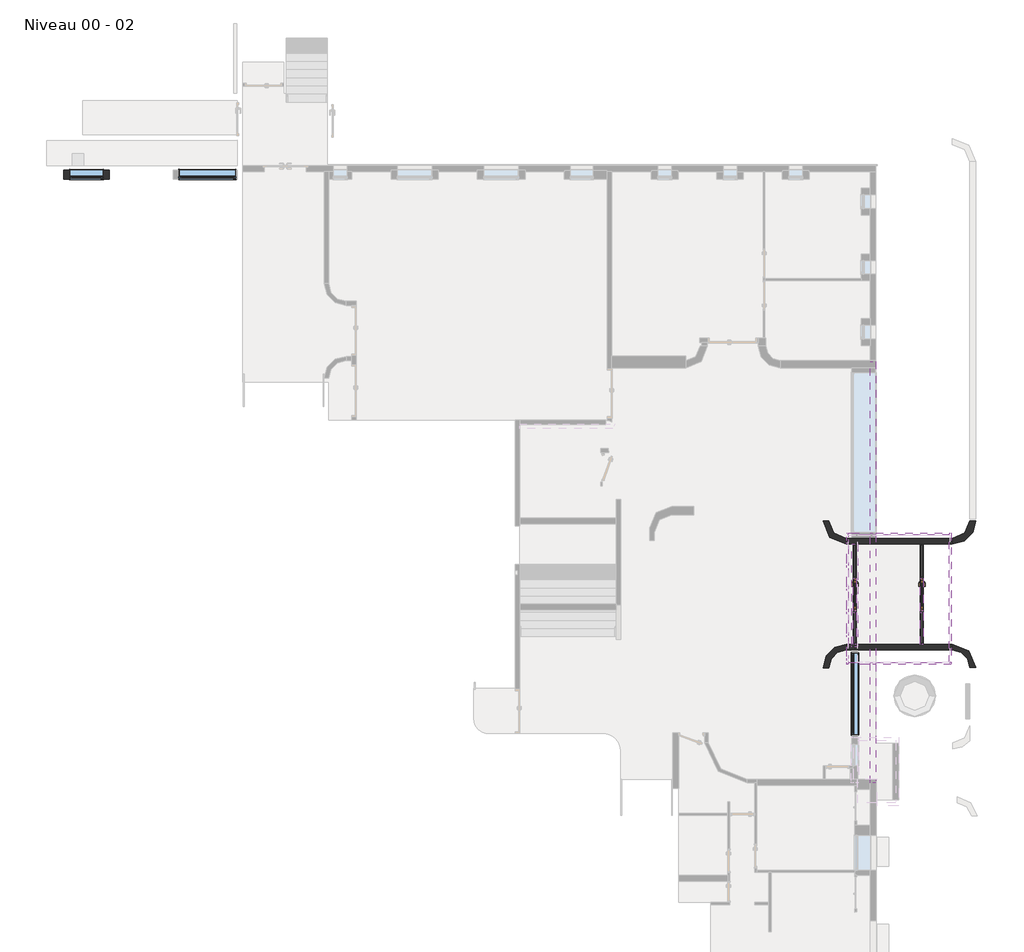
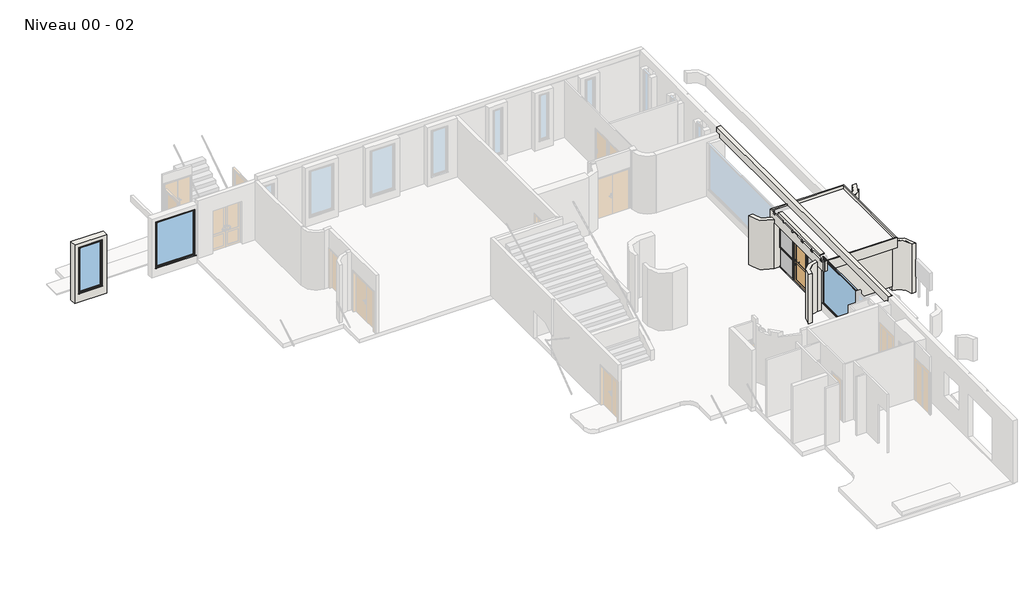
# One storey, part 3 of 6: 24 members, 14 walls, 8 plates, 3 windows, 2 doors.
"""IFC4 building model written with IfcOpenShell, lengths in millimetres."""

from ifc_helpers import new_model, si_unit, point, frame, frame_2d, origin, place, context, project, spatial, polyline, circle_curve, trimmed, segment, composite_curve, outline, extrude, faceted_brep, transform, mapped, element, save
from ifc_brep_helpers import plane_surface, cylinder_surface, revolved_surface, advanced_brep
from components import door_150329e5, meneau_rectangulaire_50_x_100mm_148b805f, meneau_rectangulaire_50_x_100mm_1a1e636b, meneau_rectangulaire_50_x_100mm_10496985, meneau_rectangulaire_50_x_100mm_e49218c7, meneau_rectangulaire_50_x_100mm_ac0cbf57, meneau_rectangulaire_50_x_100mm_a074cdb9, meneau_rectangulaire_50_x_100mm_a95d30d4, meneau_rectangulaire_50_x_100mm_ea9b84e9, meneau_rectangulaire_50_x_100mm_b1ef6331, plate_d307b216, plate_de3d3c99, plate_a6acd960, plate_1de134aa, window_116x_240_cm_9ea8152d, window_195_x_240_cm_518133bf, window_280_x_245_cm_447e3024

model = new_model("IFC4")

# Units and contexts
model_context = context("Model", 3, world=origin())
ifc_project = project(units=[si_unit("LENGTHUNIT", "METRE", prefix="MILLI")], contexts=[model_context])

# Site, building, storey
site = spatial("IfcSite", under=ifc_project)
building = spatial("IfcBuilding", under=site)
storey = spatial("IfcBuildingStorey", under=building, Name="Niveau 00 - 02", Elevation=893.3082742)

# Doors
placement = place(None, origin())
door_shape = door_150329e5(model_context)
element("IfcDoor", 1, ObjectType="Simple vitrée : Simple vitrée", at=placement, inside=storey, context=model_context, shape_type="MappedRepresentation", body=[
    mapped(door_shape, transform((4624.2383271, -3998.4112741, 943.3082742), x_axis=(0.0, 1.0, 0.0), y_axis=(-1.0, 0.0, 0.0), z_axis=(0.0, 0.0, 1.0))),
])
element("IfcDoor", 2, ObjectType="Simple vitrée : Simple vitrée", at=placement, inside=storey, context=model_context, shape_type="MappedRepresentation", body=[
    mapped(door_shape, transform((2320.3283813, -3998.4112741, 943.3082742), x_axis=(0.0, 1.0, 0.0), y_axis=(-1.0, 0.0, 0.0), z_axis=(0.0, 0.0, 1.0))),
])

# Members
meneau_rectangulaire_50_x_100mm_shape = meneau_rectangulaire_50_x_100mm_148b805f(model_context)
element("IfcMember", 3, ObjectType="Meneau rectangulaire : 50 x 100mm", at=placement, inside=storey, context=model_context, shape_type="MappedRepresentation", body=[
    mapped(meneau_rectangulaire_50_x_100mm_shape, transform((4624.2383271, -4581.3399336, 893.3082742), x_axis=(0.0, 0.0, -1.0), y_axis=(1.0, 0.0, 0.0), z_axis=(0.0, -1.0, 0.0))),
])
element("IfcMember", 4, ObjectType="Meneau rectangulaire : 50 x 100mm", at=placement, inside=storey, context=model_context, shape_type="MappedRepresentation", body=[
    mapped(meneau_rectangulaire_50_x_100mm_shape, transform((2320.3283813, -4581.3399336, 893.3082742), x_axis=(0.0, 0.0, -1.0), y_axis=(1.0, 0.0, 0.0), z_axis=(0.0, -1.0, 0.0))),
])
meneau_rectangulaire_50_x_100mm_2_shape = meneau_rectangulaire_50_x_100mm_1a1e636b(model_context)
element("IfcMember", 5, ObjectType="Meneau rectangulaire : 50 x 100mm", at=placement, inside=storey, context=model_context, shape_type="MappedRepresentation", body=[
    mapped(meneau_rectangulaire_50_x_100mm_2_shape, transform((4624.2383271, -3440.4826145, 3243.3082742), x_axis=(0.0, 0.0, 1.0), y_axis=(1.0, 0.0, 0.0), z_axis=(0.0, 1.0, 0.0))),
])
element("IfcMember", 6, ObjectType="Meneau rectangulaire : 50 x 100mm", at=placement, inside=storey, context=model_context, shape_type="MappedRepresentation", body=[
    mapped(meneau_rectangulaire_50_x_100mm_2_shape, transform((2320.3283813, -3440.4826145, 3243.3082742), x_axis=(0.0, 0.0, 1.0), y_axis=(1.0, 0.0, 0.0), z_axis=(0.0, 1.0, 0.0))),
])
element("IfcMember", 7, ObjectType="Meneau rectangulaire : 50 x 100mm", at=placement, inside=storey, context=model_context, shape_type="MappedRepresentation", body=[
    mapped(meneau_rectangulaire_50_x_100mm_shape, transform((4624.2383271, -3415.4826145, 893.3082742), x_axis=(0.0, 0.0, -1.0), y_axis=(1.0, 0.0, 0.0), z_axis=(0.0, -1.0, 0.0))),
])
element("IfcMember", 8, ObjectType="Meneau rectangulaire : 50 x 100mm", at=placement, inside=storey, context=model_context, shape_type="MappedRepresentation", body=[
    mapped(meneau_rectangulaire_50_x_100mm_shape, transform((2320.3283813, -3415.4826145, 893.3082742), x_axis=(0.0, 0.0, -1.0), y_axis=(1.0, 0.0, 0.0), z_axis=(0.0, -1.0, 0.0))),
])
meneau_rectangulaire_50_x_100mm_3_shape = meneau_rectangulaire_50_x_100mm_10496985(model_context)
element("IfcMember", 9, ObjectType="Meneau rectangulaire : 50 x 100mm", at=placement, inside=storey, context=model_context, shape_type="MappedRepresentation", body=[
    mapped(meneau_rectangulaire_50_x_100mm_3_shape, transform((4624.2383271, -2299.6253919, 1953.3082742), x_axis=(0.0, 0.0, 1.0), y_axis=(1.0, 0.0, 0.0), z_axis=(0.0, 1.0, 0.0))),
])
element("IfcMember", 10, ObjectType="Meneau rectangulaire : 50 x 100mm", at=placement, inside=storey, context=model_context, shape_type="MappedRepresentation", body=[
    mapped(meneau_rectangulaire_50_x_100mm_3_shape, transform((2320.3283813, -2299.6253919, 1953.3082742), x_axis=(0.0, 0.0, 1.0), y_axis=(1.0, 0.0, 0.0), z_axis=(0.0, 1.0, 0.0))),
])
meneau_rectangulaire_50_x_100mm_4_shape = meneau_rectangulaire_50_x_100mm_e49218c7(model_context)
element("IfcMember", 11, ObjectType="Meneau rectangulaire : 50 x 100mm", at=placement, inside=storey, context=model_context, shape_type="MappedRepresentation", body=[
    mapped(meneau_rectangulaire_50_x_100mm_4_shape, transform((4624.2383271, -4581.3399336, 943.3082742), x_axis=(0.0, 1.0, 0.0), y_axis=(1.0, 0.0, 0.0), z_axis=(0.0, 0.0, -1.0))),
])
element("IfcMember", 12, ObjectType="Meneau rectangulaire : 50 x 100mm", at=placement, inside=storey, context=model_context, shape_type="MappedRepresentation", body=[
    mapped(meneau_rectangulaire_50_x_100mm_4_shape, transform((4624.2383271, -3415.4826145, 943.3082742), x_axis=(0.0, 1.0, 0.0), y_axis=(1.0, 0.0, 0.0), z_axis=(0.0, 0.0, -1.0))),
])
element("IfcMember", 13, ObjectType="Meneau rectangulaire : 50 x 100mm", at=placement, inside=storey, context=model_context, shape_type="MappedRepresentation", body=[
    mapped(meneau_rectangulaire_50_x_100mm_4_shape, transform((2320.3283813, -4581.3399336, 943.3082742), x_axis=(0.0, 1.0, 0.0), y_axis=(1.0, 0.0, 0.0), z_axis=(0.0, 0.0, -1.0))),
])
element("IfcMember", 14, ObjectType="Meneau rectangulaire : 50 x 100mm", at=placement, inside=storey, context=model_context, shape_type="MappedRepresentation", body=[
    mapped(meneau_rectangulaire_50_x_100mm_4_shape, transform((2320.3283813, -3415.4826145, 943.3082742), x_axis=(0.0, 1.0, 0.0), y_axis=(1.0, 0.0, 0.0), z_axis=(0.0, 0.0, -1.0))),
])
meneau_rectangulaire_50_x_100mm_5_shape = meneau_rectangulaire_50_x_100mm_ac0cbf57(model_context)
element("IfcMember", 15, ObjectType="Meneau rectangulaire : 50 x 100mm", at=placement, inside=storey, context=model_context, shape_type="MappedRepresentation", body=[
    mapped(meneau_rectangulaire_50_x_100mm_5_shape, transform((4624.2383271, -4581.3399336, 1953.3082742), x_axis=(0.0, 1.0, 0.0), y_axis=(1.0, 0.0, 0.0), z_axis=(0.0, 0.0, -1.0))),
])
element("IfcMember", 16, ObjectType="Meneau rectangulaire : 50 x 100mm", at=placement, inside=storey, context=model_context, shape_type="MappedRepresentation", body=[
    mapped(meneau_rectangulaire_50_x_100mm_5_shape, transform((4624.2383271, -3415.4826145, 1953.3082742), x_axis=(0.0, 1.0, 0.0), y_axis=(1.0, 0.0, 0.0), z_axis=(0.0, 0.0, -1.0))),
])
element("IfcMember", 17, ObjectType="Meneau rectangulaire : 50 x 100mm", at=placement, inside=storey, context=model_context, shape_type="MappedRepresentation", body=[
    mapped(meneau_rectangulaire_50_x_100mm_5_shape, transform((2320.3283813, -4581.3399336, 1953.3082742), x_axis=(0.0, 1.0, 0.0), y_axis=(1.0, 0.0, 0.0), z_axis=(0.0, 0.0, -1.0))),
])
element("IfcMember", 18, ObjectType="Meneau rectangulaire : 50 x 100mm", at=placement, inside=storey, context=model_context, shape_type="MappedRepresentation", body=[
    mapped(meneau_rectangulaire_50_x_100mm_5_shape, transform((2320.3283813, -3415.4826145, 1953.3082742), x_axis=(0.0, 1.0, 0.0), y_axis=(1.0, 0.0, 0.0), z_axis=(0.0, 0.0, -1.0))),
])
meneau_rectangulaire_50_x_100mm_6_shape = meneau_rectangulaire_50_x_100mm_a074cdb9(model_context)
element("IfcMember", 19, ObjectType="Meneau rectangulaire : 50 x 100mm", at=placement, inside=storey, context=model_context, shape_type="MappedRepresentation", body=[
    mapped(meneau_rectangulaire_50_x_100mm_6_shape, transform((4624.2383271, -2249.6253919, 1953.3082742), x_axis=(0.0, 1.0, 0.0), y_axis=(1.0, 0.0, 0.0), z_axis=(0.0, 0.0, -1.0))),
])
element("IfcMember", 20, ObjectType="Meneau rectangulaire : 50 x 100mm", at=placement, inside=storey, context=model_context, shape_type="MappedRepresentation", body=[
    mapped(meneau_rectangulaire_50_x_100mm_6_shape, transform((2320.3283813, -2249.6253919, 1953.3082742), x_axis=(0.0, 1.0, 0.0), y_axis=(1.0, 0.0, 0.0), z_axis=(0.0, 0.0, -1.0))),
])
meneau_rectangulaire_50_x_100mm_7_shape = meneau_rectangulaire_50_x_100mm_a95d30d4(model_context)
element("IfcMember", 21, ObjectType="Meneau rectangulaire : 50 x 100mm", at=placement, inside=storey, context=model_context, shape_type="MappedRepresentation", body=[
    mapped(meneau_rectangulaire_50_x_100mm_7_shape, transform((4624.2383271, -5699.6253835, 1953.3082742), x_axis=(0.0, -1.0, 0.0), y_axis=(1.0, 0.0, 0.0), z_axis=(0.0, 0.0, 1.0))),
])
element("IfcMember", 22, ObjectType="Meneau rectangulaire : 50 x 100mm", at=placement, inside=storey, context=model_context, shape_type="MappedRepresentation", body=[
    mapped(meneau_rectangulaire_50_x_100mm_7_shape, transform((2320.3283813, -5699.6253835, 1953.3082742), x_axis=(0.0, -1.0, 0.0), y_axis=(1.0, 0.0, 0.0), z_axis=(0.0, 0.0, 1.0))),
])
meneau_rectangulaire_50_x_100mm_8_shape = meneau_rectangulaire_50_x_100mm_ea9b84e9(model_context)
element("IfcMember", 23, ObjectType="Meneau rectangulaire : 50 x 100mm", at=placement, inside=storey, context=model_context, shape_type="MappedRepresentation", body=[
    mapped(meneau_rectangulaire_50_x_100mm_8_shape, transform((4624.2383271, -4606.3399336, 3243.3082742), x_axis=(0.0, 0.0, 1.0), y_axis=(1.0, 0.0, 0.0), z_axis=(0.0, 1.0, 0.0))),
])
element("IfcMember", 24, ObjectType="Meneau rectangulaire : 50 x 100mm", at=placement, inside=storey, context=model_context, shape_type="MappedRepresentation", body=[
    mapped(meneau_rectangulaire_50_x_100mm_8_shape, transform((2320.3283813, -4606.3399336, 3243.3082742), x_axis=(0.0, 0.0, 1.0), y_axis=(1.0, 0.0, 0.0), z_axis=(0.0, 1.0, 0.0))),
])
meneau_rectangulaire_50_x_100mm_9_shape = meneau_rectangulaire_50_x_100mm_b1ef6331(model_context)
element("IfcMember", 25, ObjectType="Meneau rectangulaire : 50 x 100mm", at=placement, inside=storey, context=model_context, shape_type="MappedRepresentation", body=[
    mapped(meneau_rectangulaire_50_x_100mm_9_shape, transform((4624.2383271, -4606.3399336, 1953.3082742), x_axis=(0.0, 0.0, 1.0), y_axis=(1.0, 0.0, 0.0), z_axis=(0.0, 1.0, 0.0))),
])
element("IfcMember", 26, ObjectType="Meneau rectangulaire : 50 x 100mm", at=placement, inside=storey, context=model_context, shape_type="MappedRepresentation", body=[
    mapped(meneau_rectangulaire_50_x_100mm_9_shape, transform((2320.3283813, -4606.3399336, 1953.3082742), x_axis=(0.0, 0.0, 1.0), y_axis=(1.0, 0.0, 0.0), z_axis=(0.0, 1.0, 0.0))),
])

# Plates
plate_shape = plate_d307b216(model_context)
element("IfcPlate", 27, ObjectType="Panneau système : Vitré", at=placement, inside=storey, context=model_context, shape_type="MappedRepresentation", body=[
    mapped(plate_shape, transform((4624.2383271, -5127.9826585, 943.3082742), x_axis=(0.0, 1.0, 0.0), y_axis=(-1.0, 0.0, 0.0), z_axis=(0.0, 0.0, 1.0))),
])
element("IfcPlate", 28, ObjectType="Panneau système : Vitré", at=placement, inside=storey, context=model_context, shape_type="MappedRepresentation", body=[
    mapped(plate_shape, transform((2320.3283813, -5127.9826585, 943.3082742), x_axis=(0.0, 1.0, 0.0), y_axis=(-1.0, 0.0, 0.0), z_axis=(0.0, 0.0, 1.0))),
])
plate_2_shape = plate_de3d3c99(model_context)
element("IfcPlate", 29, ObjectType="Panneau système : Vitré", at=placement, inside=storey, context=model_context, shape_type="MappedRepresentation", body=[
    mapped(plate_2_shape, transform((4624.2383271, -5127.9826585, 1978.3082742), x_axis=(0.0, 1.0, 0.0), y_axis=(-1.0, 0.0, 0.0), z_axis=(0.0, 0.0, 1.0))),
])
element("IfcPlate", 30, ObjectType="Panneau système : Vitré", at=placement, inside=storey, context=model_context, shape_type="MappedRepresentation", body=[
    mapped(plate_2_shape, transform((2320.3283813, -5127.9826585, 1978.3082742), x_axis=(0.0, 1.0, 0.0), y_axis=(-1.0, 0.0, 0.0), z_axis=(0.0, 0.0, 1.0))),
])
plate_3_shape = plate_a6acd960(model_context)
element("IfcPlate", 31, ObjectType="Panneau système : Vitré", at=placement, inside=storey, context=model_context, shape_type="MappedRepresentation", body=[
    mapped(plate_3_shape, transform((4624.2383271, -2845.0540032, 943.3082742), x_axis=(0.0, 1.0, 0.0), y_axis=(-1.0, 0.0, 0.0), z_axis=(0.0, 0.0, 1.0))),
])
element("IfcPlate", 32, ObjectType="Panneau système : Vitré", at=placement, inside=storey, context=model_context, shape_type="MappedRepresentation", body=[
    mapped(plate_3_shape, transform((2320.3283813, -2845.0540032, 943.3082742), x_axis=(0.0, 1.0, 0.0), y_axis=(-1.0, 0.0, 0.0), z_axis=(0.0, 0.0, 1.0))),
])
plate_4_shape = plate_1de134aa(model_context)
element("IfcPlate", 33, ObjectType="Panneau système : Vitré", at=placement, inside=storey, context=model_context, shape_type="MappedRepresentation", body=[
    mapped(plate_4_shape, transform((4624.2383271, -2845.0540032, 1978.3082742), x_axis=(0.0, 1.0, 0.0), y_axis=(-1.0, 0.0, 0.0), z_axis=(0.0, 0.0, 1.0))),
])
element("IfcPlate", 34, ObjectType="Panneau système : Vitré", at=placement, inside=storey, context=model_context, shape_type="MappedRepresentation", body=[
    mapped(plate_4_shape, transform((2320.3283813, -2845.0540032, 1978.3082742), x_axis=(0.0, 1.0, 0.0), y_axis=(-1.0, 0.0, 0.0), z_axis=(0.0, 0.0, 1.0))),
])

# Walls
element("IfcWall", 35, ObjectType="@_Générique - Int. 60 mm", at=placement, inside=storey, context=model_context, shape_type="Brep", body=[
    faceted_brep([(5639.2383271, -6329.9413933, 3243.3082742), (5639.2383271, -1872.3694361, 3243.3082742), (5639.2383271, -1872.3694361, 3743.3082742), (5639.2383271, -6329.9413933, 3743.3082742), (5579.2383271, -6329.9413933, 3243.3082742), (5579.2383271, -6329.9413933, 3743.3082742), (5579.2383271, -1932.3694361, 3743.3082742), (5579.2383271, -1872.3694361, 3743.3082742), (5579.2383271, -1872.3694361, 3243.3082742), (5579.2383271, -1932.3694361, 3243.3082742)], [[[0, 1, 2, 3]], [[4, 5, 6, 7, 8, 9]], [[1, 0, 4, 9, 8]], [[3, 2, 7, 6, 5]], [[2, 1, 8, 7]], [[0, 3, 5, 4]]]),
])
element("IfcWall", 36, ObjectType="@_Générique - Int. 60 mm", at=placement, inside=storey, context=model_context, shape_type="Brep", body=[
    faceted_brep([(2098.4732755, -6389.9413933, 3243.3082742), (5639.2383271, -6389.9413933, 3243.3082742), (5639.2383271, -6389.9413933, 3743.3082742), (3047.4682744, -6389.9413933, 3743.3082742), (2847.4682744, -6389.9413933, 3743.3082742), (2098.4732755, -6389.9413933, 3743.3082742), (2098.4732755, -6329.9413933, 3243.3082742), (2098.4732755, -6329.9413933, 3743.3082742), (2847.4682744, -6329.9413933, 3743.3082742), (3047.4682744, -6329.9413933, 3743.3082742), (5579.2383271, -6329.9413933, 3743.3082742), (5639.2383271, -6329.9413933, 3743.3082742), (5639.2383271, -6329.9413933, 3243.3082742), (5579.2383271, -6329.9413933, 3243.3082742)], [[[0, 1, 2, 3, 4, 5]], [[6, 7, 8, 9, 10, 11, 12, 13]], [[1, 0, 6, 13, 12]], [[5, 4, 3, 2, 11, 10, 9, 8, 7]], [[2, 1, 12, 11]], [[0, 5, 7, 6]]]),
])
element("IfcWall", 37, ObjectType="@_Générique - Int. 60 mm", at=placement, inside=storey, context=model_context, shape_type="Brep", body=[
    faceted_brep([(5579.2383271, -1872.3694361, 3243.3082742), (2098.4732755, -1872.3694361, 3243.3082742), (2098.4732755, -1872.3694361, 3743.3082742), (2847.4682745, -1872.3694361, 3743.3082742), (3047.4682745, -1872.3694361, 3743.3082742), (5579.2383271, -1872.3694361, 3743.3082742), (5579.2383271, -1932.3694361, 3243.3082742), (5579.2383271, -1932.3694361, 3743.3082742), (3047.4682745, -1932.3694361, 3743.3082742), (2847.4682745, -1932.3694361, 3743.3082742), (2098.4732755, -1932.3694361, 3743.3082742), (2098.4732755, -1932.3694361, 3493.3082742), (2098.4732755, -1932.3694361, 3293.3082742), (2098.4732755, -1932.3694361, 3243.3082742)], [[[0, 1, 2, 3, 4, 5]], [[6, 7, 8, 9, 10, 11, 12, 13]], [[1, 0, 6, 13]], [[5, 4, 3, 2, 10, 9, 8, 7]], [[0, 5, 7, 6]], [[2, 1, 13, 12, 11, 10]]]),
])
element("IfcWall", 38, ObjectType="@_Générique - Int. 60 mm", at=placement, inside=storey, context=model_context, shape_type="AdvancedBrep", body=[
    advanced_brep(
    [(2098.4732755, -6389.9413933, 3243.3082742), (2098.4732755, -6329.9413933, 3243.3082742), (2098.4732755, -1932.3694361, 3243.3082742), (2098.4732755, -1872.3694361, 3243.3082742), (2098.4732755, -1872.3694361, 3743.3082742), (2098.4732755, -1932.3694361, 3743.3082742), (2098.4732755, -2087.8799451, 3743.3082742), (2098.4732755, -2087.8799451, 3673.3082742), (2098.4732755, -2290.7660029, 3673.3082742), (2098.4732755, -2290.7660029, 3743.3082742), (2098.4732755, -2887.8799451, 3743.3082742), (2098.4732755, -2887.8799451, 3673.3082742), (2098.4732755, -3090.7660029, 3673.3082742), (2098.4732755, -3090.7660029, 3743.3082742), (2098.4732755, -3687.8799451, 3743.3082742), (2098.4732755, -3687.8799451, 3673.3082742), (2098.4732755, -3890.7660029, 3673.3082742), (2098.4732755, -3890.7660029, 3743.3082742), (2098.4732755, -4487.8799451, 3743.3082742), (2098.4732755, -4487.8799451, 3673.3082742), (2098.4732755, -4690.7660029, 3673.3082742), (2098.4732755, -4690.7660029, 3743.3082742), (2098.4732755, -5287.8799451, 3743.3082742), (2098.4732755, -5287.8799451, 3673.3082742), (2098.4732755, -5490.7660029, 3673.3082742), (2098.4732755, -5490.7660029, 3743.3082742), (2098.4732755, -6087.8799451, 3743.3082742), (2098.4732755, -6087.8799451, 3673.3082742), (2098.4732755, -6290.7660029, 3673.3082742), (2098.4732755, -6290.7660029, 3743.3082742), (2098.4732755, -6329.9413933, 3743.3082742), (2098.4732755, -6389.9413933, 3743.3082742), (2038.4732755, -1872.3694361, 3243.3082742), (2038.4732755, -6389.9413933, 3243.3082742), (2038.4732755, -6389.9413933, 3743.3082742), (2038.4732755, -6253.2293239, 3743.3082742), (2038.4732755, -6253.2293239, 3673.3082742), (2038.4732755, -6125.4166242, 3673.3082742), (2038.4732755, -6125.4166242, 3743.3082742), (2038.4732755, -5453.2293239, 3743.3082742), (2038.4732755, -5453.2293239, 3673.3082742), (2038.4732755, -5325.4166242, 3673.3082742), (2038.4732755, -5325.4166242, 3743.3082742), (2038.4732755, -4653.2293239, 3743.3082742), (2038.4732755, -4653.2293239, 3673.3082742), (2038.4732755, -4525.4166242, 3673.3082742), (2038.4732755, -4525.4166242, 3743.3082742), (2038.4732755, -3853.2293239, 3743.3082742), (2038.4732755, -3853.2293239, 3673.3082742), (2038.4732755, -3725.4166242, 3673.3082742), (2038.4732755, -3725.4166242, 3743.3082742), (2038.4732755, -3053.2293239, 3743.3082742), (2038.4732755, -3053.2293239, 3673.3082742), (2038.4732755, -2925.4166242, 3673.3082742), (2038.4732755, -2925.4166242, 3743.3082742), (2038.4732755, -2253.2293239, 3743.3082742), (2038.4732755, -2253.2293239, 3673.3082742), (2038.4732755, -2125.4166242, 3673.3082742), (2038.4732755, -2125.4166242, 3743.3082742), (2038.4732755, -1872.3694361, 3743.3082742)],
    [
        (0, 1),
        (1, 2),
        (2, 3),
        (3, 4),
        (4, 5),
        (5, 6),
        (6, 7),
        (7, 8),
        (8, 9),
        (9, 10),
        (10, 11),
        (11, 12),
        (12, 13),
        (13, 14),
        (14, 15),
        (15, 16),
        (16, 17),
        (17, 18),
        (18, 19),
        (19, 20),
        (20, 21),
        (21, 22),
        (22, 23),
        (23, 24),
        (24, 25),
        (25, 26),
        (26, 27),
        (27, 28),
        (28, 29),
        (29, 30),
        (30, 31),
        (31, 0),
        (32, 33),
        (33, 34),
        (34, 35),
        (35, 36),
        (36, 37),
        (37, 38),
        (38, 39),
        (39, 40),
        (40, 41),
        (41, 42),
        (42, 43),
        (43, 44),
        (44, 45),
        (45, 46),
        (46, 47),
        (47, 48),
        (48, 49),
        (49, 50),
        (50, 51),
        (51, 52),
        (52, 53),
        (53, 54),
        (54, 55),
        (55, 56),
        (56, 57),
        (57, 58),
        (58, 59),
        (59, 32),
        (0, 33),
        (32, 3),
        (34, 31),
        (29, 35, circle_curve(frame((2030.4202728, -6332.822974, 3743.3082742), z_axis=(0.0, 0.0, 1.0), x_axis=(1.0, 0.0, 0.0)), 80.0)),
        (4, 59),
        (58, 6, circle_curve(frame((2030.4202728, -2045.822974, 3743.3082742), z_axis=(0.0, 0.0, 1.0), x_axis=(1.0, 0.0, 0.0)), 80.0)),
        (9, 55, circle_curve(frame((2030.4202728, -2332.822974, 3743.3082742), z_axis=(0.0, 0.0, 1.0), x_axis=(1.0, 0.0, 0.0)), 80.0)),
        (54, 10, circle_curve(frame((2030.4202728, -2845.822974, 3743.3082742), z_axis=(0.0, 0.0, 1.0), x_axis=(1.0, 0.0, 0.0)), 80.0)),
        (13, 51, circle_curve(frame((2030.4202728, -3132.822974, 3743.3082742), z_axis=(0.0, 0.0, 1.0), x_axis=(1.0, 0.0, 0.0)), 80.0)),
        (50, 14, circle_curve(frame((2030.4202728, -3645.822974, 3743.3082742), z_axis=(0.0, 0.0, 1.0), x_axis=(1.0, 0.0, 0.0)), 80.0)),
        (17, 47, circle_curve(frame((2030.4202728, -3932.822974, 3743.3082742), z_axis=(0.0, 0.0, 1.0), x_axis=(1.0, 0.0, 0.0)), 80.0)),
        (46, 18, circle_curve(frame((2030.4202728, -4445.822974, 3743.3082742), z_axis=(0.0, 0.0, 1.0), x_axis=(1.0, 0.0, 0.0)), 80.0)),
        (21, 43, circle_curve(frame((2030.4202728, -4732.822974, 3743.3082742), z_axis=(0.0, 0.0, 1.0), x_axis=(1.0, 0.0, 0.0)), 80.0)),
        (42, 22, circle_curve(frame((2030.4202728, -5245.822974, 3743.3082742), z_axis=(0.0, 0.0, 1.0), x_axis=(1.0, 0.0, 0.0)), 80.0)),
        (25, 39, circle_curve(frame((2030.4202728, -5532.822974, 3743.3082742), z_axis=(0.0, 0.0, 1.0), x_axis=(1.0, 0.0, 0.0)), 80.0)),
        (38, 26, circle_curve(frame((2030.4202728, -6045.822974, 3743.3082742), z_axis=(0.0, 0.0, 1.0), x_axis=(1.0, 0.0, 0.0)), 80.0)),
        (7, 57, circle_curve(frame((2030.4202728, -2045.822974, 3673.3082742), z_axis=(0.0, 0.0, -1.0), x_axis=(1.0, 0.0, 0.0)), 80.0)),
        (56, 8, circle_curve(frame((2030.4202728, -2332.822974, 3673.3082742), z_axis=(0.0, 0.0, -1.0), x_axis=(1.0, 0.0, 0.0)), 80.0)),
        (11, 53, circle_curve(frame((2030.4202728, -2845.822974, 3673.3082742), z_axis=(0.0, 0.0, -1.0), x_axis=(1.0, 0.0, 0.0)), 80.0)),
        (52, 12, circle_curve(frame((2030.4202728, -3132.822974, 3673.3082742), z_axis=(0.0, 0.0, -1.0), x_axis=(1.0, 0.0, 0.0)), 80.0)),
        (15, 49, circle_curve(frame((2030.4202728, -3645.822974, 3673.3082742), z_axis=(0.0, 0.0, -1.0), x_axis=(1.0, 0.0, 0.0)), 80.0)),
        (48, 16, circle_curve(frame((2030.4202728, -3932.822974, 3673.3082742), z_axis=(0.0, 0.0, -1.0), x_axis=(1.0, 0.0, 0.0)), 80.0)),
        (19, 45, circle_curve(frame((2030.4202728, -4445.822974, 3673.3082742), z_axis=(0.0, 0.0, -1.0), x_axis=(1.0, 0.0, 0.0)), 80.0)),
        (44, 20, circle_curve(frame((2030.4202728, -4732.822974, 3673.3082742), z_axis=(0.0, 0.0, -1.0), x_axis=(1.0, 0.0, 0.0)), 80.0)),
        (23, 41, circle_curve(frame((2030.4202728, -5245.822974, 3673.3082742), z_axis=(0.0, 0.0, -1.0), x_axis=(1.0, 0.0, 0.0)), 80.0)),
        (40, 24, circle_curve(frame((2030.4202728, -5532.822974, 3673.3082742), z_axis=(0.0, 0.0, -1.0), x_axis=(1.0, 0.0, 0.0)), 80.0)),
        (27, 37, circle_curve(frame((2030.4202728, -6045.822974, 3673.3082742), z_axis=(0.0, 0.0, -1.0), x_axis=(1.0, 0.0, 0.0)), 80.0)),
        (36, 28, circle_curve(frame((2030.4202728, -6332.822974, 3673.3082742), z_axis=(0.0, 0.0, -1.0), x_axis=(1.0, 0.0, 0.0)), 80.0)),
    ],
    [
        plane_surface(frame((2098.4732755, -5239.175633, 3243.3082742), z_axis=(1.0, 0.0, 0.0), x_axis=(0.0, 1.0, 0.0))),
        plane_surface(frame((2038.4732755, -5239.175633, 3243.3082742), z_axis=(-1.0, 0.0, 0.0), x_axis=(0.0, -1.0, 0.0))),
        plane_surface(frame((2098.4732755, -6359.9413933, 3243.3082742), z_axis=(0.0, 0.0, -1.0), x_axis=(-1.0, 0.0, 0.0))),
        plane_surface(frame((2098.4732755, -1902.3694361, 3743.3082742), z_axis=(0.0, 0.0, 1.0), x_axis=(-1.0, 0.0, 0.0))),
        plane_surface(frame((5340.8462755, -6389.9413933, 3243.3082742), z_axis=(0.0, -1.0, 0.0), x_axis=(1.0, 0.0, 0.0))),
        plane_surface(frame((3859.3147549, -1872.3694361, 3243.3082742), z_axis=(0.0, 1.0, 0.0), x_axis=(-1.0, 0.0, 0.0))),
        plane_surface(frame((2847.4682686, -10466.6335398, 3673.3082742), z_axis=(0.0, 0.0, 1.0), x_axis=(0.0, -1.0, 0.0))),
        cylinder_surface(frame((2030.4202728, -2045.822974, 3953.3082742), z_axis=(0.0, 0.0, 1.0), x_axis=(1.0, 0.0, 0.0)), 80.0),
        cylinder_surface(frame((2030.4202728, -2845.822974, 3953.3082742), z_axis=(0.0, 0.0, 1.0), x_axis=(1.0, 0.0, 0.0)), 80.0),
        cylinder_surface(frame((2030.4202728, -2332.822974, 3953.3082742), z_axis=(0.0, 0.0, 1.0), x_axis=(1.0, 0.0, 0.0)), 80.0),
        cylinder_surface(frame((2030.4202728, -3645.822974, 3953.3082742), z_axis=(0.0, 0.0, 1.0), x_axis=(1.0, 0.0, 0.0)), 80.0),
        cylinder_surface(frame((2030.4202728, -3132.822974, 3953.3082742), z_axis=(0.0, 0.0, 1.0), x_axis=(1.0, 0.0, 0.0)), 80.0),
        cylinder_surface(frame((2030.4202728, -4445.822974, 3953.3082742), z_axis=(0.0, 0.0, 1.0), x_axis=(1.0, 0.0, 0.0)), 80.0),
        cylinder_surface(frame((2030.4202728, -3932.822974, 3953.3082742), z_axis=(0.0, 0.0, 1.0), x_axis=(1.0, 0.0, 0.0)), 80.0),
        cylinder_surface(frame((2030.4202728, -5245.822974, 3953.3082742), z_axis=(0.0, 0.0, 1.0), x_axis=(1.0, 0.0, 0.0)), 80.0),
        cylinder_surface(frame((2030.4202728, -4732.822974, 3953.3082742), z_axis=(0.0, 0.0, 1.0), x_axis=(1.0, 0.0, 0.0)), 80.0),
        cylinder_surface(frame((2030.4202728, -6045.822974, 3953.3082742), z_axis=(0.0, 0.0, 1.0), x_axis=(1.0, 0.0, 0.0)), 80.0),
        cylinder_surface(frame((2030.4202728, -5532.822974, 3953.3082742), z_axis=(0.0, 0.0, 1.0), x_axis=(1.0, 0.0, 0.0)), 80.0),
        cylinder_surface(frame((2030.4202728, -6332.822974, 3953.3082742), z_axis=(0.0, 0.0, 1.0), x_axis=(1.0, 0.0, 0.0)), 80.0),
    ],
    [
        (0, [[1, 2, 3, 4, 5, 6, 7, 8, 9, 10, 11, 12, 13, 14, 15, 16, 17, 18, 19, 20, 21, 22, 23, 24, 25, 26, 27, 28, 29, 30, 31, 32]]),
        (1, [[33, 34, 35, 36, 37, 38, 39, 40, 41, 42, 43, 44, 45, 46, 47, 48, 49, 50, 51, 52, 53, 54, 55, 56, 57, 58, 59, 60]]),
        (2, [[-3, -2, -1, 61, -33, 62]]),
        (3, [[63, -31, -30, 64, -35]]),
        (3, [[65, -59, 66, -6, -5]]),
        (3, [[-10, 67, -55, 68]]),
        (3, [[-14, 69, -51, 70]]),
        (3, [[-18, 71, -47, 72]]),
        (3, [[-22, 73, -43, 74]]),
        (3, [[-26, 75, -39, 76]]),
        (4, [[-32, -63, -34, -61]]),
        (5, [[-4, -62, -60, -65]]),
        (6, [[77, -57, 78, -8]]),
        (6, [[79, -53, 80, -12]]),
        (6, [[81, -49, 82, -16]]),
        (6, [[83, -45, 84, -20]]),
        (6, [[85, -41, 86, -24]]),
        (6, [[87, -37, 88, -28]]),
        (7, [[-77, -7, -66, -58]]),
        (8, [[-79, -11, -68, -54]]),
        (9, [[-78, -56, -67, -9]]),
        (10, [[-81, -15, -70, -50]]),
        (11, [[-80, -52, -69, -13]]),
        (12, [[-83, -19, -72, -46]]),
        (13, [[-82, -48, -71, -17]]),
        (14, [[-85, -23, -74, -42]]),
        (15, [[-84, -44, -73, -21]]),
        (16, [[-87, -27, -76, -38]]),
        (17, [[-86, -40, -75, -25]]),
        (18, [[-88, -36, -64, -29]]),
    ],
),
])
element("IfcWall", 39, ObjectType="Ext. Voile BA 200", at=placement, inside=storey, context=model_context, shape_type="SweptSolid", body=[
    extrude(outline(polyline([(2420.3283813, -2249.6253919), (2420.3283813, -5799.6253835), (2220.3283813, -5799.6253835), (2220.3283813, -2249.6253919), (2420.3283813, -2249.6253919)])), frame((0.0, 0.0, 3493.3082742), z_axis=(0.0, 0.0, 1.0), x_axis=(1.0, 0.0, 0.0)), (0.0, 0.0, 1.0), 225.2244093),
    extrude(outline(polyline([(2420.3283813, -2249.6253919), (2420.3283813, -5699.6253835), (2220.3283813, -5699.6253835), (2220.3283813, -2249.6253919), (2420.3283813, -2249.6253919)])), frame((0.0, 0.0, 3243.3082742), z_axis=(0.0, 0.0, 1.0), x_axis=(1.0, 0.0, 0.0)), (0.0, 0.0, 1.0), 50.0),
])
element("IfcWall", 40, ObjectType="Ext. Voile BA 200", at=placement, inside=storey, context=model_context, shape_type="Brep", body=[
    faceted_brep([(3047.4682746, 4030.8848612, 3718.3082742), (3047.4682746, 4030.8848612, 4121.8727639), (3047.4682743, -10346.6335398, 4121.8727639), (3047.4682743, -10466.6335398, 4121.8727639), (3047.4682743, -10466.6335398, 3718.3082742), (3047.4682743, -10346.6335398, 3718.3082742), (3047.4682744, -6389.9413933, 3718.3082742), (3047.4682744, -6389.9413933, 3743.3082742), (3047.4682744, -6329.9413933, 3743.3082742), (3047.4682744, -6329.9413933, 3718.3082742), (3047.4682745, -1932.3694361, 3718.3082742), (3047.4682745, -1932.3694361, 3743.3082742), (3047.4682745, -1872.3694361, 3743.3082742), (3047.4682745, -1872.3694361, 3718.3082742), (2847.4682746, 4030.8848612, 4121.8727639), (2847.4682746, 4030.8848612, 3718.3082742), (2847.4682745, -1872.3694361, 3718.3082742), (2847.4682745, -1872.3694361, 3743.3082742), (2847.4682745, -1932.3694361, 3743.3082742), (2847.4682745, -1932.3694361, 3718.3082742), (2847.4682744, -6329.9413933, 3718.3082742), (2847.4682744, -6329.9413933, 3743.3082742), (2847.4682744, -6389.9413933, 3743.3082742), (2847.4682744, -6389.9413933, 3718.3082742), (2847.4682743, -10466.6335398, 3718.3082742), (2847.4682743, -10466.6335398, 4121.8727639)], [[[0, 1, 2, 3, 4, 5, 6, 7, 8, 9, 10, 11, 12, 13]], [[14, 15, 16, 17, 18, 19, 20, 21, 22, 23, 24, 25]], [[15, 0, 13, 16]], [[9, 20, 19, 10]], [[4, 24, 23, 6, 5]], [[1, 0, 15, 14]], [[3, 2, 1, 14, 25]], [[4, 3, 25, 24]], [[22, 7, 6, 23]], [[8, 21, 20, 9]], [[7, 22, 21, 8]], [[12, 17, 16, 13]], [[18, 11, 10, 19]], [[17, 12, 11, 18]]]),
])
element("IfcWall", 41, ObjectType="Ext. Voile BA 200 bleu", at=placement, inside=storey, context=model_context, shape_type="Brep", body=[
    faceted_brep([(2320.3283813, -5899.6253835, 893.3082742), (2420.3283813, -5899.6253835, 893.3082742), (3047.4682841, -5899.6253835, 893.3082742), (4684.2383271, -5899.6253835, 893.3082742), (5684.4653671, -5899.6253835, 893.3082742), (5684.4653671, -5899.6253835, 3243.75642), (2320.3283813, -5899.6253835, 3243.75642), (2320.3283813, -5899.6253835, 3228.0838649), (5579.2383271, -5899.6253835, 3228.0838649), (5579.2383271, -5899.6253835, 3198.0838649), (2320.3283813, -5899.6253835, 3198.0838649), (5684.4653671, -5699.6253835, 893.3082742), (2420.3283813, -5699.6253835, 893.3082742), (2320.3283813, -5699.6253835, 893.3082742), (2320.3283813, -5699.6253835, 3198.0838649), (5579.2383271, -5699.6253835, 3198.0838649), (5579.2383271, -5699.6253835, 3228.0838649), (2320.3283813, -5699.6253835, 3228.0838649), (2320.3283813, -5699.6253835, 3243.75642), (5684.4653671, -5699.6253835, 3243.75642)], [[[0, 1, 2, 3, 4, 5, 6, 7, 8, 9, 10]], [[11, 12, 13, 14, 15, 16, 17, 18, 19]], [[4, 3, 2, 1, 0, 13, 12, 11]], [[5, 4, 11, 19]], [[6, 5, 19, 18]], [[6, 18, 17, 7]], [[13, 0, 10, 14]], [[9, 15, 14, 10]], [[15, 9, 8, 16]], [[16, 8, 7, 17]]]),
])
element("IfcWall", 42, ObjectType="Ext. Voile BA 200 bleu", at=placement, inside=storey, context=model_context, shape_type="AdvancedBrep", body=[
    advanced_brep(
    [(6284.4653673, -1449.6253911, 3243.3082742), (5684.4653665, -2049.6253919, 3243.3082742), (5684.4653665, -2249.6253919, 3243.3082742), (6484.4653673, -1449.6253911, 3243.3082742), (6284.4653673, -1449.6253911, 693.3082742), (6484.4653673, -1449.6253911, 693.3082742), (5684.4653665, -2249.6253919, 693.3082742), (5684.4653665, -2049.6253919, 693.3082742), (5684.4653665, -2049.6253919, 893.3082742), (5684.4653665, -2249.6253919, 893.3082742)],
    [
        (0, 1, circle_curve(frame((5684.4653665, -1449.6253911, 3243.3082742), z_axis=(0.0, 0.0, -1.0), x_axis=(1.0, 0.0, 0.0)), 600.0000008)),
        (1, 2),
        (2, 3, circle_curve(frame((5684.4653665, -1449.6253911, 3243.3082742), z_axis=(0.0, 0.0, 1.0), x_axis=(1.0, 0.0, 0.0)), 800.0000008)),
        (3, 0),
        (4, 5),
        (5, 6, circle_curve(frame((5684.4653665, -1449.6253911, 693.3082742), z_axis=(0.0, 0.0, -1.0), x_axis=(1.0, 0.0, 0.0)), 800.0000008)),
        (6, 7),
        (7, 4, circle_curve(frame((5684.4653665, -1449.6253911, 693.3082742), z_axis=(0.0, 0.0, 1.0), x_axis=(1.0, 0.0, 0.0)), 600.0000008)),
        (0, 4),
        (7, 8),
        (8, 1),
        (6, 9),
        (9, 2),
        (5, 3),
    ],
    [
        plane_surface(frame((6284.4653673, -1449.6253911, 3243.3082742), z_axis=(0.0, 0.0, 1.0), x_axis=(0.0, -1.0, 0.0))),
        plane_surface(frame((6284.4653673, -1449.6253911, 693.3082742), z_axis=(0.0, 0.0, -1.0), x_axis=(0.0, 1.0, 0.0))),
        revolved_surface(polyline([(6284.465367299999, -1449.6253911, 693.3082742), (6284.465367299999, -1449.6253911, 3243.3082742)]), (5684.4653665, -1449.6253911, 693.3082742), (0.0, 0.0, -1.0)),
        plane_surface(frame((5684.4653665, -2049.6253919, 3243.3082742), z_axis=(-1.0, 0.0, 0.0), x_axis=(0.0, 0.0, -1.0))),
        cylinder_surface(frame((5684.4653665, -1449.6253911, 693.3082742), z_axis=(0.0, 0.0, 1.0), x_axis=(1.0, 0.0, 0.0)), 800.0000008),
        plane_surface(frame((6484.4653673, -1449.6253911, 3243.3082742), z_axis=(0.0, 1.0, 0.0), x_axis=(0.0, 0.0, -1.0))),
    ],
    [
        (0, [[1, 2, 3, 4]]),
        (1, [[5, 6, 7, 8]]),
        (2, [[-1, 9, -8, 10, 11]]),
        (3, [[-2, -11, -10, -7, 12, 13]]),
        (4, [[-3, -13, -12, -6, 14]]),
        (5, [[-4, -14, -5, -9]]),
    ],
),
])
element("IfcWall", 43, ObjectType="Ext. Voile BA 200 bleu", at=placement, inside=storey, context=model_context, shape_type="SweptSolid", body=[
    extrude(outline(polyline([(893.3082742, 2027.4682695), (893.3082742, 5684.4653665), (3243.3082742, 5684.4653665), (3243.3082742, 2027.4682695), (893.3082742, 2027.4682695)]), holes=[polyline([(3198.0838649, 5579.2383271), (3198.0838649, 2100.3283813), (3228.0838649, 2100.3283813), (3228.0838649, 5579.2383271), (3198.0838649, 5579.2383271)])]), frame((0.0, -2249.6253919, 0.0), z_axis=(0.0, 1.0, 0.0), x_axis=(0.0, 0.0, 1.0)), (0.0, 0.0, 1.0), 200.0),
])
element("IfcWall", 44, ObjectType="Ext. Voile BA 200 bleu", at=placement, inside=storey, context=model_context, shape_type="AdvancedBrep", body=[
    advanced_brep(
    [(6484.4653664, -6499.6253828, 3243.3082742), (5684.4653671, -5699.6253835, 3243.3082742), (5684.4653671, -5899.6253835, 3243.3082742), (6284.4653664, -6499.6253828, 3243.3082742), (5684.4653671, -5699.6253835, 693.3082742), (6484.4653664, -6499.6253828, 693.3082742), (6284.4653664, -6499.6253828, 693.3082742), (5684.4653671, -5899.6253835, 693.3082742), (5684.4653671, -5699.6253835, 893.3082742), (5684.4653671, -5899.6253835, 893.3082742)],
    [
        (0, 1, circle_curve(frame((5684.4653671, -6499.6253828, 3243.3082742), z_axis=(0.0, 0.0, 1.0), x_axis=(1.0, 0.0, 0.0)), 799.9999993)),
        (1, 2),
        (2, 3, circle_curve(frame((5684.4653671, -6499.6253828, 3243.3082742), z_axis=(0.0, 0.0, -1.0), x_axis=(1.0, 0.0, 0.0)), 599.9999993)),
        (3, 0),
        (4, 5, circle_curve(frame((5684.4653671, -6499.6253828, 693.3082742), z_axis=(0.0, 0.0, -1.0), x_axis=(1.0, 0.0, 0.0)), 799.9999993)),
        (5, 6),
        (6, 7, circle_curve(frame((5684.4653671, -6499.6253828, 693.3082742), z_axis=(0.0, 0.0, 1.0), x_axis=(1.0, 0.0, 0.0)), 599.9999993)),
        (7, 4),
        (0, 5),
        (4, 8),
        (8, 1),
        (7, 9),
        (9, 2),
        (6, 3),
    ],
    [
        plane_surface(frame((6484.4653664, -6499.6253828, 3243.3082742), z_axis=(0.0, 0.0, 1.0), x_axis=(0.0, 1.0, 0.0))),
        plane_surface(frame((6484.4653664, -6499.6253828, 693.3082742), z_axis=(0.0, 0.0, -1.0), x_axis=(0.0, -1.0, 0.0))),
        cylinder_surface(frame((5684.4653671, -6499.6253828, 693.3082742), z_axis=(0.0, 0.0, 1.0), x_axis=(1.0, 0.0, 0.0)), 799.9999993),
        plane_surface(frame((5684.4653671, -5699.6253835, 3243.3082742), z_axis=(-1.0, 0.0, 0.0), x_axis=(0.0, 0.0, -1.0))),
        revolved_surface(polyline([(6284.4653664, -6499.6253828, 693.3082742), (6284.4653664, -6499.6253828, 3243.3082742)]), (5684.4653671, -6499.6253828, 693.3082742), (0.0, 0.0, -1.0)),
        plane_surface(frame((6284.4653664, -6499.6253828, 3243.3082742), z_axis=(0.0, -1.0, 0.0), x_axis=(0.0, 0.0, -1.0))),
    ],
    [
        (0, [[1, 2, 3, 4]]),
        (1, [[5, 6, 7, 8]]),
        (2, [[-1, 9, -5, 10, 11]]),
        (3, [[-2, -11, -10, -8, 12, 13]]),
        (4, [[-3, -13, -12, -7, 14]]),
        (5, [[-4, -14, -6, -9]]),
    ],
),
])
element("IfcWall", 45, ObjectType="Ext. Voile BA 200 bleu", at=placement, inside=storey, context=model_context, shape_type="SweptSolid", body=[
    extrude(outline(polyline([(893.3082742, 2320.3283813), (3243.75642, 2320.3283813), (3243.75642, 2420.3283813), (3443.3082742, 2420.3283813), (3443.3082742, 2027.4682716), (893.3082742, 2027.4682716), (893.3082742, 2320.3283813)])), frame((0.0, -5899.6253835, 0.0), z_axis=(0.0, 1.0, 0.0), x_axis=(0.0, 0.0, 1.0)), (0.0, 0.0, 1.0), 200.0),
])
element("IfcWall", 46, ObjectType="Ext. Voile BA 200 bleu", at=placement, inside=storey, context=model_context, shape_type="SweptSolid", body=[
    extrude(outline(composite_curve([segment(polyline([(2027.4682695, -2049.6277303), (2027.4682695, -2249.6277303)]), True, "CONTINUOUS"), segment(trimmed(circle_curve(frame_2d((2027.4682695, -1449.6277303)), 800.0), [point((2027.4682695, -2249.6277303))], [point((1227.4682695, -1449.6277303))], False, "CARTESIAN"), True, "CONTINUOUS"), segment(polyline([(1227.4682695, -1449.6277303), (1427.4682695, -1449.6277303)]), True, "CONTINUOUS"), segment(trimmed(circle_curve(frame_2d((2027.4682695, -1449.6277303)), 600.0), [point((1427.4682695, -1449.6277303))], [point((2027.4682695, -2049.6277303))], True, "CARTESIAN"), True, "CONTINUOUS")], self_intersect=False)), frame((0.0, 0.0, 893.3082742), z_axis=(0.0, 0.0, 1.0), x_axis=(1.0, 0.0, 0.0)), (0.0, 0.0, 1.0), 2550.0),
])
element("IfcWall", 47, ObjectType="Ext. Voile BA 200 bleu", at=placement, inside=storey, context=model_context, shape_type="SweptSolid", body=[
    extrude(outline(composite_curve([segment(polyline([(2027.4682716, -5699.6253946), (2027.4682716, -5899.6253946)]), True, "CONTINUOUS"), segment(trimmed(circle_curve(frame_2d((2027.4682716, -6499.6253929)), 599.9999983), [point((2027.4682716, -5899.6253946))], [point((1427.5161547, -6507.2053279))], True, "CARTESIAN"), True, "CONTINUOUS"), segment(polyline([(1427.5161547, -6507.2053279), (1227.5321152, -6509.7319729)]), True, "CONTINUOUS"), segment(trimmed(circle_curve(frame_2d((2027.4682716, -6499.6253929)), 799.9999983), [point((1227.5321152, -6509.7319729))], [point((2027.4682716, -5699.6253946))], False, "CARTESIAN"), True, "CONTINUOUS")], self_intersect=False)), frame((0.0, 0.0, 893.3082742), z_axis=(0.0, 0.0, 1.0), x_axis=(1.0, 0.0, 0.0)), (0.0, 0.0, 1.0), 2550.0),
])
element("IfcWall", 48, ObjectType="Ext. Voile BA 300", at=placement, inside=storey, context=model_context, shape_type="Brep", body=[
    faceted_brep([(-23340.162699, 10620.8848589, 893.3082742), (-24910.1626975, 10620.8848589, 893.3082742), (-24910.1626975, 10620.8848589, 3921.8727639), (-23340.162699, 10620.8848589, 3921.8727639), (-23550.1626983, 10620.8848589, 1323.3082742), (-23550.1626983, 10620.8848589, 3723.3082742), (-24710.1626983, 10620.8848589, 3723.3082742), (-24710.1626983, 10620.8848589, 1323.3082742), (-24910.1626975, 10320.8848589, 893.3082742), (-23340.162699, 10320.8848589, 893.3082742), (-23340.162699, 10320.8848589, 3921.8727639), (-24910.1626975, 10320.8848589, 3921.8727639), (-23550.1626983, 10320.8848589, 3723.3082742), (-23550.1626983, 10320.8848589, 1323.3082742), (-24710.1626983, 10320.8848589, 1323.3082742), (-24710.1626983, 10320.8848589, 3723.3082742), (-23340.162699, 10580.8848589, 893.3082742), (-24910.1626975, 10580.8848589, 893.3082742), (-24910.1626975, 10580.8848589, 3921.8727639), (-23340.162699, 10580.8848589, 3921.8727639)], [[[0, 1, 2, 3], [4, 5, 6, 7]], [[8, 9, 10, 11], [12, 13, 14, 15]], [[1, 0, 16, 9, 8, 17]], [[2, 1, 17, 8, 11, 18]], [[3, 2, 18, 11, 10, 19]], [[0, 3, 19, 10, 9, 16]], [[4, 13, 12, 5]], [[5, 12, 15, 6]], [[6, 15, 14, 7]], [[13, 4, 7, 14]]]),
])

# Windows
window_116x_240_cm_shape = window_116x_240_cm_9ea8152d(model_context)
element("IfcWindow", 49, ObjectType="Fenêtre type 1 : 116x 240 cm", at=placement, inside=storey, context=model_context, shape_type="MappedRepresentation", body=[
    mapped(window_116x_240_cm_shape, transform((-24130.1626983, 10470.8848589, 523.3082742), x_axis=(-1.0, 0.0, 0.0), y_axis=(0.0, -1.0, 0.0), z_axis=(0.0, 0.0, 1.0))),
])
window_195_x_240_cm_shape = window_195_x_240_cm_518133bf(model_context)
element("IfcWindow", 50, ObjectType="Fenêtre type 1 : 195 x 240 cm", at=placement, inside=storey, context=model_context, shape_type="MappedRepresentation", body=[
    mapped(window_195_x_240_cm_shape, transform((-19969.0938634, 10470.8848589, 523.3082742), x_axis=(-1.0, 0.0, 0.0), y_axis=(0.0, -1.0, 0.0), z_axis=(0.0, 0.0, 1.0))),
])
window_280_x_245_cm_shape = window_280_x_245_cm_447e3024(model_context)
element("IfcWindow", 51, ObjectType="Fenêtre type 1 : 280 x 245 cm", at=placement, inside=storey, context=model_context, shape_type="MappedRepresentation", body=[
    mapped(window_280_x_245_cm_shape, transform((2320.3283813, -7411.6335398, 518.3082742), x_axis=(0.0, 1.0, 0.0), y_axis=(-1.0, 0.0, 0.0), z_axis=(0.0, 0.0, 1.0))),
])

save(model, "model.ifc")
